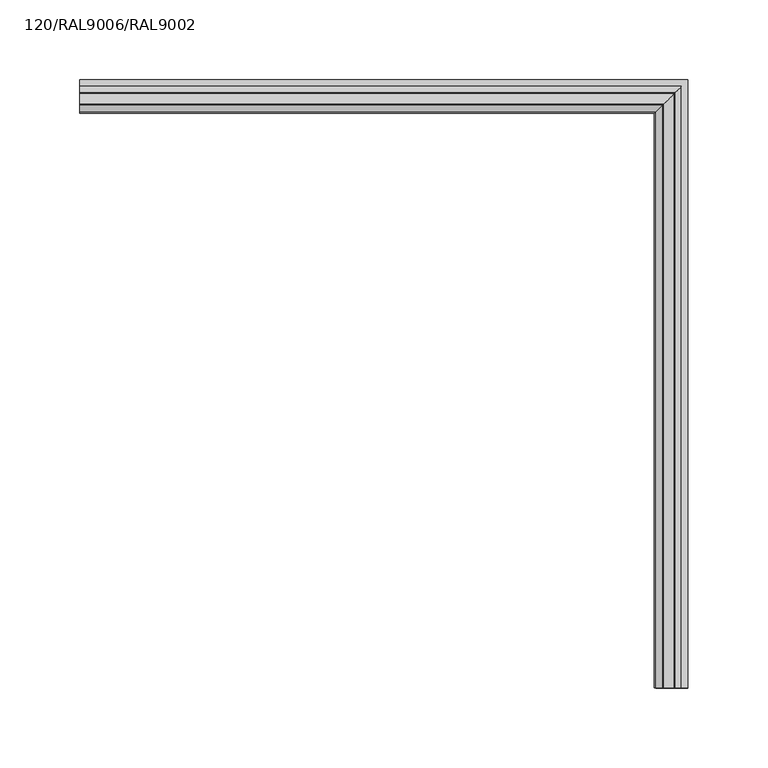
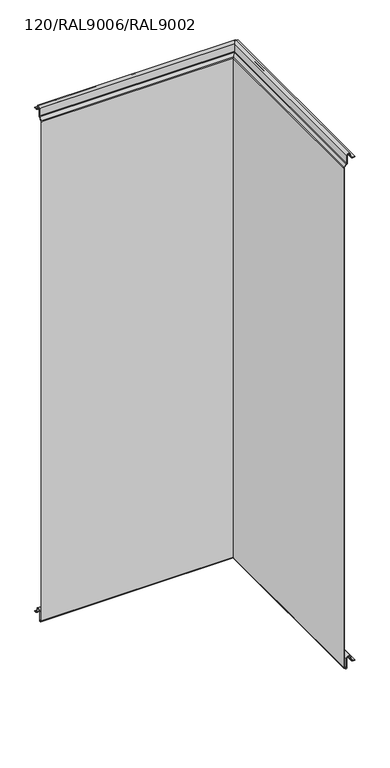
"""IFC4 building model written with IfcOpenShell, lengths in millimetres: plate geometry, TR_C_H_FTV_Corner_Tr_A : 120/RAL9006/RAL9002."""

from ifc_helpers import new_model, si_unit, frame, origin, place, context, project, spatial, polyline, circle_curve, ellipse_curve, source, transform, mapped, element, save
from ifc_brep_helpers import plane_surface, cylinder_surface, revolved_surface, advanced_brep


def plate_120_ral9006_ral9002_7097234f(model_context):
    return source(origin(), model_context, "Body", "AdvancedBrep", [
        advanced_brep(
        [(141.0, -480.0, 1000.6000012), (136.8869672, -480.0, 1000.6000012), (133.1939382, -480.0, 1003.6988205), (132.4506252, -480.0, 1007.9143577), (126.0, -480.0, 1007.3500012), (126.0, -480.0, 992.6000012), (125.267767, -480.0, 990.8322342), (120.8786797, -480.0, 986.4431469), (120.0, -480.0, 984.3218266), (120.0, -480.0, -5.018628), (120.8054564, -480.0, -6.9631716), (122.6711418, -480.0, -8.8288571), (126.0, -480.0, -7.4499988), (126.0, -480.0, 10.1500012), (132.8475867, -480.0, 10.7490874), (133.914412, -480.0, 4.6988205), (137.6074411, -480.0, 1.6000012), (141.0, -480.0, 1.6000012), (141.0, -480.0, 2.4000012), (137.6074411, -480.0, 2.4000012), (134.7022582, -480.0, 4.837739), (133.635433, -480.0, 10.8880059), (125.2, -480.0, 10.1500012), (125.2, -480.0, -7.4499988), (123.2368272, -480.0, -8.2631716), (121.3711418, -480.0, -6.3974862), (120.8, -480.0, -5.018628), (120.8, -480.0, 984.3218266), (121.4443651, -480.0, 985.8774615), (125.8334524, -480.0, 990.2665488), (126.8, -480.0, 992.6000012), (126.8, -480.0, 1007.3500012), (131.662779, -480.0, 1007.7754392), (132.4060919, -480.0, 1003.559902), (136.8869672, -480.0, 999.8000012), (141.0, -480.0, 999.8000012), (133.1939382, -106.8060618, 1003.6988205), (136.8869672, -103.1130328, 1000.6000012), (-240.0, -103.1130328, 1000.6000012), (-240.0, -106.8060618, 1003.6988205), (132.4506252, -107.5493748, 1007.9143577), (-240.0, -107.5493748, 1007.9143577), (126.0, -114.0, 1007.3500012), (-240.0, -114.0, 1007.3500012), (126.0, -114.0, 992.6000012), (-240.0, -114.0, 992.6000012), (125.267767, -114.732233, 990.8322342), (-240.0, -114.732233, 990.8322342), (120.8786797, -119.1213203, 986.4431469), (-240.0, -119.1213203, 986.4431469), (120.0, -120.0, 984.3218266), (-240.0, -120.0, 984.3218266), (120.0, -120.0, -5.018628), (-240.0, -120.0, -5.018628), (120.8054564, -119.1945436, -6.9631716), (-240.0, -119.1945436, -6.9631716), (122.6711418, -117.3288582, -8.8288571), (-240.0, -117.3288582, -8.8288571), (126.0, -114.0, -7.4499988), (-240.0, -114.0, -7.4499988), (126.0, -114.0, 10.1500012), (-240.0, -114.0, 10.1500012), (132.8475867, -107.1524133, 10.7490874), (-240.0, -107.1524133, 10.7490874), (133.914412, -106.085588, 4.6988205), (-240.0, -106.085588, 4.6988205), (137.6074411, -102.3925589, 1.6000012), (-240.0, -102.3925589, 1.6000012), (141.0, -99.0, 2.4000012), (141.0, -99.0, 1.6000012), (-240.0, -99.0, 1.6000012), (-240.0, -99.0, 2.4000012), (134.7022582, -105.2977418, 4.837739), (137.6074411, -102.3925589, 2.4000012), (-240.0, -102.3925589, 2.4000012), (-240.0, -105.2977418, 4.837739), (133.635433, -106.364567, 10.8880059), (-240.0, -106.364567, 10.8880059), (125.2, -114.8, 10.1500012), (-240.0, -114.8, 10.1500012), (125.2, -114.8, -7.4499988), (-240.0, -114.8, -7.4499988), (123.2368272, -116.7631728, -8.2631716), (-240.0, -116.7631728, -8.2631716), (121.3711418, -118.6288582, -6.3974862), (-240.0, -118.6288582, -6.3974862), (120.8, -119.2, -5.018628), (-240.0, -119.2, -5.018628), (120.8, -119.2, 984.3218266), (-240.0, -119.2, 984.3218266), (121.4443651, -118.5556349, 985.8774615), (-240.0, -118.5556349, 985.8774615), (125.8334524, -114.1665476, 990.2665488), (-240.0, -114.1665476, 990.2665488), (126.8, -113.2, 992.6000012), (-240.0, -113.2, 992.6000012), (126.8, -113.2, 1007.3500012), (-240.0, -113.2, 1007.3500012), (131.662779, -108.337221, 1007.7754392), (-240.0, -108.337221, 1007.7754392), (132.4060919, -107.5939081, 1003.559902), (-240.0, -107.5939081, 1003.559902), (136.8869672, -103.1130328, 999.8000012), (-240.0, -103.1130328, 999.8000012), (141.0, -99.0, 1000.6000012), (141.0, -99.0, 999.8000012), (-240.0, -99.0, 999.8000012), (-240.0, -99.0, 1000.6000012)],
        [
            (0, 1),
            (1, 2, circle_curve(frame((136.8869672, -480.0, 1004.3500012), z_axis=(0.0, 1.0, 0.0), x_axis=(-1.0, 0.0, 0.0)), 3.75)),
            (2, 3),
            (3, 4, circle_curve(frame((129.25, -480.0, 1007.3500012), z_axis=(0.0, -1.0, 0.0), x_axis=(-1.0, 0.0, 0.0)), 3.25)),
            (4, 5),
            (5, 6, circle_curve(frame((123.5, -480.0, 992.6000012), z_axis=(0.0, 1.0, 0.0), x_axis=(-1.0, 0.0, 0.0)), 2.5)),
            (6, 7),
            (7, 8, circle_curve(frame((123.0, -480.0, 984.3218266), z_axis=(0.0, -1.0, 0.0), x_axis=(-1.0, 0.0, 0.0)), 3.0)),
            (8, 9),
            (9, 10, circle_curve(frame((122.75, -480.0, -5.018628), z_axis=(0.0, -1.0, 0.0), x_axis=(-1.0, 0.0, 0.0)), 2.75)),
            (10, 11),
            (11, 12, circle_curve(frame((124.05, -480.0, -7.4499988), z_axis=(0.0, -1.0, 0.0), x_axis=(-1.0, 0.0, 0.0)), 1.95)),
            (12, 13),
            (13, 14, circle_curve(frame((129.45, -480.0, 10.1500012), z_axis=(0.0, 1.0, 0.0), x_axis=(-1.0, 0.0, 0.0)), 3.45)),
            (14, 15),
            (15, 16, circle_curve(frame((137.6074411, -480.0, 5.3500012), z_axis=(0.0, -1.0, 0.0), x_axis=(-1.0, 0.0, 0.0)), 3.75)),
            (16, 17),
            (17, 18),
            (18, 19),
            (19, 20, circle_curve(frame((137.6074411, -480.0, 5.3500012), z_axis=(0.0, 1.0, 0.0), x_axis=(-1.0, 0.0, 0.0)), 2.95)),
            (20, 21),
            (21, 22, circle_curve(frame((129.45, -480.0, 10.1500012), z_axis=(0.0, -1.0, 0.0), x_axis=(-1.0, 0.0, 0.0)), 4.25)),
            (22, 23),
            (23, 24, circle_curve(frame((124.05, -480.0, -7.4499988), z_axis=(0.0, 1.0, 0.0), x_axis=(-1.0, 0.0, 0.0)), 1.15)),
            (24, 25),
            (25, 26, circle_curve(frame((122.75, -480.0, -5.018628), z_axis=(0.0, 1.0, 0.0), x_axis=(-1.0, 0.0, 0.0)), 1.95)),
            (26, 27),
            (27, 28, circle_curve(frame((123.0, -480.0, 984.3218266), z_axis=(0.0, 1.0, 0.0), x_axis=(-1.0, 0.0, 0.0)), 2.2)),
            (28, 29),
            (29, 30, circle_curve(frame((123.5, -480.0, 992.6000012), z_axis=(0.0, -1.0, 0.0), x_axis=(-1.0, 0.0, 0.0)), 3.3)),
            (30, 31),
            (31, 32, circle_curve(frame((129.25, -480.0, 1007.3500012), z_axis=(0.0, 1.0, 0.0), x_axis=(-1.0, 0.0, 0.0)), 2.45)),
            (32, 33),
            (33, 34, circle_curve(frame((136.8869672, -480.0, 1004.3500012), z_axis=(0.0, -1.0, 0.0), x_axis=(-1.0, 0.0, 0.0)), 4.55)),
            (34, 35),
            (35, 0),
            (36, 37, ellipse_curve(frame((136.8869672, -103.1130328, 1004.3500012), z_axis=(0.7071067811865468, -0.7071067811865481, 0.0), x_axis=(-0.7071067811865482, -0.7071067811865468, 0.0)), 5.3033009, 3.75)),
            (37, 38),
            (38, 39, circle_curve(frame((-240.0, -103.1130328, 1004.3500012), z_axis=(-1.0, 0.0, 0.0), x_axis=(0.0, -1.0, 0.0)), 3.75)),
            (39, 36),
            (40, 36),
            (39, 41),
            (41, 40),
            (42, 40, ellipse_curve(frame((129.25, -110.75, 1007.3500012), z_axis=(-0.7071067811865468, 0.7071067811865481, 0.0), x_axis=(0.7071067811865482, 0.7071067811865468, 0.0)), 4.5961941, 3.25)),
            (41, 43, circle_curve(frame((-240.0, -110.75, 1007.3500012), z_axis=(1.0, 0.0, 0.0), x_axis=(0.0, -1.0, 0.0)), 3.25)),
            (43, 42),
            (44, 42),
            (43, 45),
            (45, 44),
            (46, 44, ellipse_curve(frame((123.5, -116.5, 992.6000012), z_axis=(0.7071067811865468, -0.7071067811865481, 0.0), x_axis=(-0.7071067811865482, -0.7071067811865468, 0.0)), 3.5355339, 2.5)),
            (45, 47, circle_curve(frame((-240.0, -116.5, 992.6000012), z_axis=(-1.0, 0.0, 0.0), x_axis=(0.0, -1.0, 0.0)), 2.5)),
            (47, 46),
            (48, 46),
            (47, 49),
            (49, 48),
            (50, 48, ellipse_curve(frame((123.0, -117.0, 984.3218266), z_axis=(-0.7071067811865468, 0.7071067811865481, 0.0), x_axis=(0.7071067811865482, 0.7071067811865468, 0.0)), 4.2426407, 3.0)),
            (49, 51, circle_curve(frame((-240.0, -117.0, 984.3218266), z_axis=(1.0, 0.0, 0.0), x_axis=(0.0, -1.0, 0.0)), 3.0)),
            (51, 50),
            (52, 50),
            (51, 53),
            (53, 52),
            (54, 52, ellipse_curve(frame((122.75, -117.25, -5.018628), z_axis=(-0.7071067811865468, 0.7071067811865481, 0.0), x_axis=(0.7071067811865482, 0.7071067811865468, 0.0)), 3.8890873, 2.75)),
            (53, 55, circle_curve(frame((-240.0, -117.25, -5.018628), z_axis=(1.0, 0.0, 0.0), x_axis=(0.0, -1.0, 0.0)), 2.75)),
            (55, 54),
            (56, 54),
            (55, 57),
            (57, 56),
            (58, 56, ellipse_curve(frame((124.05, -115.95, -7.4499988), z_axis=(-0.7071067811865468, 0.7071067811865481, 0.0), x_axis=(0.7071067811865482, 0.7071067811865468, 0.0)), 2.7577164, 1.95)),
            (57, 59, circle_curve(frame((-240.0, -115.95, -7.4499988), z_axis=(1.0, 0.0, 0.0), x_axis=(0.0, -1.0, 0.0)), 1.95)),
            (59, 58),
            (60, 58),
            (59, 61),
            (61, 60),
            (62, 60, ellipse_curve(frame((129.45, -110.55, 10.1500012), z_axis=(0.7071067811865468, -0.7071067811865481, 0.0), x_axis=(-0.7071067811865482, -0.7071067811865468, 0.0)), 4.8790368, 3.45)),
            (61, 63, circle_curve(frame((-240.0, -110.55, 10.1500012), z_axis=(-1.0, 0.0, 0.0), x_axis=(0.0, -1.0, 0.0)), 3.45)),
            (63, 62),
            (64, 62),
            (63, 65),
            (65, 64),
            (66, 64, ellipse_curve(frame((137.6074411, -102.3925589, 5.3500012), z_axis=(-0.7071067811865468, 0.7071067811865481, 0.0), x_axis=(0.7071067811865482, 0.7071067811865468, 0.0)), 5.3033009, 3.75)),
            (65, 67, circle_curve(frame((-240.0, -102.3925589, 5.3500012), z_axis=(1.0, 0.0, 0.0), x_axis=(0.0, -1.0, 0.0)), 3.75)),
            (67, 66),
            (68, 69),
            (69, 70),
            (70, 71),
            (71, 68),
            (72, 73, ellipse_curve(frame((137.6074411, -102.3925589, 5.3500012), z_axis=(0.7071067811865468, -0.7071067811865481, 0.0), x_axis=(-0.7071067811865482, -0.7071067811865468, 0.0)), 4.17193, 2.95)),
            (73, 74),
            (74, 75, circle_curve(frame((-240.0, -102.3925589, 5.3500012), z_axis=(-1.0, 0.0, 0.0), x_axis=(0.0, -1.0, 0.0)), 2.95)),
            (75, 72),
            (76, 72),
            (75, 77),
            (77, 76),
            (78, 76, ellipse_curve(frame((129.45, -110.55, 10.1500012), z_axis=(-0.7071067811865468, 0.7071067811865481, 0.0), x_axis=(0.7071067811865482, 0.7071067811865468, 0.0)), 6.0104076, 4.25)),
            (77, 79, circle_curve(frame((-240.0, -110.55, 10.1500012), z_axis=(1.0, 0.0, 0.0), x_axis=(0.0, -1.0, 0.0)), 4.25)),
            (79, 78),
            (80, 78),
            (79, 81),
            (81, 80),
            (82, 80, ellipse_curve(frame((124.05, -115.95, -7.4499988), z_axis=(0.7071067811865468, -0.7071067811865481, 0.0), x_axis=(-0.7071067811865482, -0.7071067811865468, 0.0)), 1.6263456, 1.15)),
            (81, 83, circle_curve(frame((-240.0, -115.95, -7.4499988), z_axis=(-1.0, 0.0, 0.0), x_axis=(0.0, -1.0, 0.0)), 1.15)),
            (83, 82),
            (84, 82),
            (83, 85),
            (85, 84),
            (86, 84, ellipse_curve(frame((122.75, -117.25, -5.018628), z_axis=(0.7071067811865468, -0.7071067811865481, 0.0), x_axis=(-0.7071067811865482, -0.7071067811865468, 0.0)), 2.7577164, 1.95)),
            (85, 87, circle_curve(frame((-240.0, -117.25, -5.018628), z_axis=(-1.0, 0.0, 0.0), x_axis=(0.0, -1.0, 0.0)), 1.95)),
            (87, 86),
            (88, 86),
            (87, 89),
            (89, 88),
            (90, 88, ellipse_curve(frame((123.0, -117.0, 984.3218266), z_axis=(0.7071067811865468, -0.7071067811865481, 0.0), x_axis=(-0.7071067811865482, -0.7071067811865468, 0.0)), 3.1112698, 2.2)),
            (89, 91, circle_curve(frame((-240.0, -117.0, 984.3218266), z_axis=(-1.0, 0.0, 0.0), x_axis=(0.0, -1.0, 0.0)), 2.2)),
            (91, 90),
            (92, 90),
            (91, 93),
            (93, 92),
            (94, 92, ellipse_curve(frame((123.5, -116.5, 992.6000012), z_axis=(-0.7071067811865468, 0.7071067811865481, 0.0), x_axis=(0.7071067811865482, 0.7071067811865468, 0.0)), 4.6669048, 3.3)),
            (93, 95, circle_curve(frame((-240.0, -116.5, 992.6000012), z_axis=(1.0, 0.0, 0.0), x_axis=(0.0, -1.0, 0.0)), 3.3)),
            (95, 94),
            (96, 94),
            (95, 97),
            (97, 96),
            (98, 96, ellipse_curve(frame((129.25, -110.75, 1007.3500012), z_axis=(0.7071067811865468, -0.7071067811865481, 0.0), x_axis=(-0.7071067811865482, -0.7071067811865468, 0.0)), 3.4648232, 2.45)),
            (97, 99, circle_curve(frame((-240.0, -110.75, 1007.3500012), z_axis=(-1.0, 0.0, 0.0), x_axis=(0.0, -1.0, 0.0)), 2.45)),
            (99, 98),
            (100, 98),
            (99, 101),
            (101, 100),
            (102, 100, ellipse_curve(frame((136.8869672, -103.1130328, 1004.3500012), z_axis=(-0.7071067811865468, 0.7071067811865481, 0.0), x_axis=(0.7071067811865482, 0.7071067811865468, 0.0)), 6.4346717, 4.55)),
            (101, 103, circle_curve(frame((-240.0, -103.1130328, 1004.3500012), z_axis=(1.0, 0.0, 0.0), x_axis=(0.0, -1.0, 0.0)), 4.55)),
            (103, 102),
            (104, 105),
            (105, 106),
            (106, 107),
            (107, 104),
            (106, 103),
            (74, 71),
            (70, 67),
            (38, 107),
            (0, 104),
            (37, 1),
            (36, 2),
            (40, 3),
            (42, 4),
            (44, 5),
            (46, 6),
            (48, 7),
            (50, 8),
            (52, 9),
            (54, 10),
            (56, 11),
            (58, 12),
            (60, 13),
            (62, 14),
            (64, 15),
            (66, 16),
            (69, 17),
            (68, 18),
            (73, 19),
            (72, 20),
            (76, 21),
            (78, 22),
            (80, 23),
            (82, 24),
            (84, 25),
            (86, 26),
            (88, 27),
            (90, 28),
            (92, 29),
            (94, 30),
            (96, 31),
            (98, 32),
            (100, 33),
            (102, 34),
            (105, 35),
        ],
        [
            plane_surface(frame((240.0, -480.0, 0.0), z_axis=(0.0, -1.0, 0.0), x_axis=(0.0, 0.0, 1.0))),
            revolved_surface(polyline([(-240.0, -106.8630328, 1004.3500012), (140.6369672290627, -106.8630328, 1004.3500012)]), (240.0, -103.1130328, 1004.3500012), (-1.0, 0.0, 0.0)),
            plane_surface(frame((133.1939382, -106.8060618, 1003.6988205), z_axis=(0.0, 0.9848077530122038, 0.17364817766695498), x_axis=(-1.0, 0.0, 0.0))),
            cylinder_surface(frame((240.0, -110.75, 1007.3500012), z_axis=(1.0, 0.0, 0.0), x_axis=(0.0, -1.0, 0.0)), 3.25),
            plane_surface(frame((126.0, -114.0, 1007.3500012), z_axis=(0.0, -1.0, 0.0), x_axis=(-1.0, 0.0, 0.0))),
            revolved_surface(polyline([(-240.0, -119.0, 992.6000012), (126.0, -119.0, 992.6000012)]), (240.0, -116.5, 992.6000012), (-1.0, 0.0, 0.0)),
            plane_surface(frame((125.267767, -114.732233, 990.8322342), z_axis=(0.0, -0.7071067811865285, 0.7071067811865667), x_axis=(-1.0, 0.0, 0.0))),
            cylinder_surface(frame((240.0, -117.0, 984.3218266), z_axis=(1.0, 0.0, 0.0), x_axis=(0.0, -1.0, 0.0)), 3.0),
            plane_surface(frame((120.0, -120.0, 984.3218266), z_axis=(0.0, -1.0, 0.0), x_axis=(-1.0, 0.0, 0.0))),
            cylinder_surface(frame((240.0, -117.25, -5.018628), z_axis=(1.0, 0.0, 0.0), x_axis=(0.0, -1.0, 0.0)), 2.75),
            plane_surface(frame((120.8054564, -119.1945436, -6.9631716), z_axis=(0.0, -0.7071067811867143, -0.7071067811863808), x_axis=(-1.0, 0.0, 0.0))),
            cylinder_surface(frame((240.0, -115.95, -7.4499988), z_axis=(1.0, 0.0, 0.0), x_axis=(0.0, -1.0, 0.0)), 1.95),
            plane_surface(frame((126.0, -114.0, -7.4499988), z_axis=(0.0, 1.0, 0.0), x_axis=(-1.0, 0.0, 0.0))),
            revolved_surface(polyline([(-240.0, -114.0, 10.1500012), (132.9000000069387, -114.0, 10.1500012)]), (240.0, -110.55, 10.1500012), (-1.0, 0.0, 0.0)),
            plane_surface(frame((132.8475867, -107.1524133, 10.7490874), z_axis=(0.0, -0.9848077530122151, -0.1736481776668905), x_axis=(-1.0, 0.0, 0.0))),
            cylinder_surface(frame((240.0, -102.3925589, 5.3500012), z_axis=(1.0, 0.0, 0.0), x_axis=(0.0, -1.0, 0.0)), 3.75),
            plane_surface(frame((141.0, -99.0, 1.6000012), z_axis=(0.0, 1.0, 0.0), x_axis=(-1.0, 0.0, 0.0))),
            revolved_surface(polyline([(-240.0, -105.3425589, 5.3500012), (140.5574410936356, -105.3425589, 5.3500012)]), (240.0, -102.3925589, 5.3500012), (-1.0, 0.0, 0.0)),
            plane_surface(frame((134.7022582, -105.2977418, 4.837739), z_axis=(0.0, 0.9848077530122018, 0.1736481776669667), x_axis=(-1.0, 0.0, 0.0))),
            cylinder_surface(frame((240.0, -110.55, 10.1500012), z_axis=(1.0, 0.0, 0.0), x_axis=(0.0, -1.0, 0.0)), 4.25),
            plane_surface(frame((125.2, -114.8, 10.1500012), z_axis=(0.0, -1.0, 0.0), x_axis=(-1.0, 0.0, 0.0))),
            revolved_surface(polyline([(-240.0, -117.10000000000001, -7.4499988), (125.2000000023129, -117.10000000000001, -7.4499988)]), (240.0, -115.95, -7.4499988), (-1.0, 0.0, 0.0)),
            plane_surface(frame((123.2368272, -116.7631728, -8.2631716), z_axis=(0.0, 0.7071067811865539, 0.7071067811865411), x_axis=(-1.0, 0.0, 0.0))),
            revolved_surface(polyline([(-240.0, -119.2, -5.018628), (124.69999996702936, -119.2, -5.018628)]), (240.0, -117.25, -5.018628), (-1.0, 0.0, 0.0)),
            plane_surface(frame((120.8, -119.2, -5.018628), z_axis=(0.0, 1.0, 0.0), x_axis=(-1.0, 0.0, 0.0))),
            revolved_surface(polyline([(-240.0, -119.2, 984.3218266), (125.19999997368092, -119.2, 984.3218266)]), (240.0, -117.0, 984.3218266), (-1.0, 0.0, 0.0)),
            plane_surface(frame((121.4443651, -118.5556349, 985.8774615), z_axis=(0.0, 0.7071067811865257, -0.7071067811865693), x_axis=(-1.0, 0.0, 0.0))),
            cylinder_surface(frame((240.0, -116.5, 992.6000012), z_axis=(1.0, 0.0, 0.0), x_axis=(0.0, -1.0, 0.0)), 3.3),
            plane_surface(frame((126.8, -113.2, 992.6000012), z_axis=(0.0, 1.0, 0.0), x_axis=(-1.0, 0.0, 0.0))),
            revolved_surface(polyline([(-240.0, -113.2, 1007.3500012), (131.69999998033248, -113.2, 1007.3500012)]), (240.0, -110.75, 1007.3500012), (-1.0, 0.0, 0.0)),
            plane_surface(frame((131.662779, -108.337221, 1007.7754392), z_axis=(0.0, -0.9848077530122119, -0.173648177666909), x_axis=(-1.0, 0.0, 0.0))),
            cylinder_surface(frame((240.0, -103.1130328, 1004.3500012), z_axis=(1.0, 0.0, 0.0), x_axis=(0.0, -1.0, 0.0)), 4.55),
            plane_surface(frame((141.0, -99.0, 999.8000012), z_axis=(0.0, 1.0, 0.0), x_axis=(-1.0, 0.0, 0.0))),
            plane_surface(frame((-240.0, 0.0, 0.0), z_axis=(-1.0, 0.0, 0.0), x_axis=(0.0, 0.0, 1.0))),
            plane_surface(frame((141.0, -480.0, 1000.6000012), z_axis=(0.0, 0.0, 1.0), x_axis=(0.0, 1.0, 0.0))),
            revolved_surface(polyline([(133.1369672, -99.36303277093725, 1004.3500012), (133.1369672, -480.0, 1004.3500012)]), (136.8869672, -480.0, 1004.3500012), (0.0, 1.0, 0.0)),
            plane_surface(frame((133.1939382, -480.0, 1003.6988205), z_axis=(0.9848077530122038, 0.0, 0.17364817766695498), x_axis=(0.0, 1.0, 0.0))),
            cylinder_surface(frame((129.25, -480.0, 1007.3500012), z_axis=(0.0, -1.0, 0.0), x_axis=(-1.0, 0.0, 0.0)), 3.25),
            plane_surface(frame((126.0, -480.0, 1007.3500012), z_axis=(-1.0, 0.0, 0.0), x_axis=(0.0, 1.0, 0.0))),
            revolved_surface(polyline([(121.0, -114.0, 992.6000012), (121.0, -480.0, 992.6000012)]), (123.5, -480.0, 992.6000012), (0.0, 1.0, 0.0)),
            plane_surface(frame((125.267767, -480.0, 990.8322342), z_axis=(-0.7071067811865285, 0.0, 0.7071067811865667), x_axis=(0.0, 1.0, 0.0))),
            cylinder_surface(frame((123.0, -480.0, 984.3218266), z_axis=(0.0, -1.0, 0.0), x_axis=(-1.0, 0.0, 0.0)), 3.0),
            plane_surface(frame((120.0, -480.0, 984.3218266), z_axis=(-1.0, 0.0, 0.0), x_axis=(0.0, 1.0, 0.0))),
            cylinder_surface(frame((122.75, -480.0, -5.018628), z_axis=(0.0, -1.0, 0.0), x_axis=(-1.0, 0.0, 0.0)), 2.75),
            plane_surface(frame((120.8054564, -480.0, -6.9631716), z_axis=(-0.7071067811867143, 0.0, -0.7071067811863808), x_axis=(0.0, 1.0, 0.0))),
            cylinder_surface(frame((124.05, -480.0, -7.4499988), z_axis=(0.0, -1.0, 0.0), x_axis=(-1.0, 0.0, 0.0)), 1.95),
            plane_surface(frame((126.0, -480.0, -7.4499988), z_axis=(1.0, 0.0, 0.0), x_axis=(0.0, 1.0, 0.0))),
            revolved_surface(polyline([(125.99999999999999, -107.09999999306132, 10.1500012), (125.99999999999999, -480.0, 10.1500012)]), (129.45, -480.0, 10.1500012), (0.0, 1.0, 0.0)),
            plane_surface(frame((132.8475867, -480.0, 10.7490874), z_axis=(-0.9848077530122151, 0.0, -0.1736481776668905), x_axis=(0.0, 1.0, 0.0))),
            cylinder_surface(frame((137.6074411, -480.0, 5.3500012), z_axis=(0.0, -1.0, 0.0), x_axis=(-1.0, 0.0, 0.0)), 3.75),
            plane_surface(frame((137.6074411, -480.0, 1.6000012), z_axis=(0.0, 0.0, -1.0), x_axis=(0.0, 1.0, 0.0))),
            plane_surface(frame((141.0, -480.0, 1.6000012), z_axis=(1.0, 0.0, 0.0), x_axis=(0.0, 1.0, 0.0))),
            plane_surface(frame((141.0, -480.0, 2.4000012), z_axis=(0.0, 0.0, 1.0), x_axis=(0.0, 1.0, 0.0))),
            revolved_surface(polyline([(134.6574411, -99.44255890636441, 5.3500012), (134.6574411, -480.0, 5.3500012)]), (137.6074411, -480.0, 5.3500012), (0.0, 1.0, 0.0)),
            plane_surface(frame((134.7022582, -480.0, 4.837739), z_axis=(0.9848077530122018, 0.0, 0.1736481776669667), x_axis=(0.0, 1.0, 0.0))),
            cylinder_surface(frame((129.45, -480.0, 10.1500012), z_axis=(0.0, -1.0, 0.0), x_axis=(-1.0, 0.0, 0.0)), 4.25),
            plane_surface(frame((125.2, -480.0, 10.1500012), z_axis=(-1.0, 0.0, 0.0), x_axis=(0.0, 1.0, 0.0))),
            revolved_surface(polyline([(122.89999999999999, -114.79999999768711, -7.4499988), (122.89999999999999, -480.0, -7.4499988)]), (124.05, -480.0, -7.4499988), (0.0, 1.0, 0.0)),
            plane_surface(frame((123.2368272, -480.0, -8.2631716), z_axis=(0.7071067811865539, 0.0, 0.7071067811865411), x_axis=(0.0, 1.0, 0.0))),
            revolved_surface(polyline([(120.8, -115.30000003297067, -5.018628), (120.8, -480.0, -5.018628)]), (122.75, -480.0, -5.018628), (0.0, 1.0, 0.0)),
            plane_surface(frame((120.8, -480.0, -5.018628), z_axis=(1.0, 0.0, 0.0), x_axis=(0.0, 1.0, 0.0))),
            revolved_surface(polyline([(120.8, -114.80000002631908, 984.3218266), (120.8, -480.0, 984.3218266)]), (123.0, -480.0, 984.3218266), (0.0, 1.0, 0.0)),
            plane_surface(frame((121.4443651, -480.0, 985.8774615), z_axis=(0.7071067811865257, 0.0, -0.7071067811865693), x_axis=(0.0, 1.0, 0.0))),
            cylinder_surface(frame((123.5, -480.0, 992.6000012), z_axis=(0.0, -1.0, 0.0), x_axis=(-1.0, 0.0, 0.0)), 3.3),
            plane_surface(frame((126.8, -480.0, 992.6000012), z_axis=(1.0, 0.0, 0.0), x_axis=(0.0, 1.0, 0.0))),
            revolved_surface(polyline([(126.8, -108.30000001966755, 1007.3500012), (126.8, -480.0, 1007.3500012)]), (129.25, -480.0, 1007.3500012), (0.0, 1.0, 0.0)),
            plane_surface(frame((131.662779, -480.0, 1007.7754392), z_axis=(-0.9848077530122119, 0.0, -0.173648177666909), x_axis=(0.0, 1.0, 0.0))),
            cylinder_surface(frame((136.8869672, -480.0, 1004.3500012), z_axis=(0.0, -1.0, 0.0), x_axis=(-1.0, 0.0, 0.0)), 4.55),
            plane_surface(frame((136.8869672, -480.0, 999.8000012), z_axis=(0.0, 0.0, -1.0), x_axis=(0.0, 1.0, 0.0))),
            plane_surface(frame((141.0, -480.0, 999.8000012), z_axis=(1.0, 0.0, 0.0), x_axis=(0.0, 1.0, 0.0))),
        ],
        [
            (0, [[1, 2, 3, 4, 5, 6, 7, 8, 9, 10, 11, 12, 13, 14, 15, 16, 17, 18, 19, 20, 21, 22, 23, 24, 25, 26, 27, 28, 29, 30, 31, 32, 33, 34, 35, 36]]),
            (1, [[37, 38, 39, 40]]),
            (2, [[41, -40, 42, 43]]),
            (3, [[44, -43, 45, 46]]),
            (4, [[47, -46, 48, 49]]),
            (5, [[50, -49, 51, 52]]),
            (6, [[53, -52, 54, 55]]),
            (7, [[56, -55, 57, 58]]),
            (8, [[59, -58, 60, 61]]),
            (9, [[62, -61, 63, 64]]),
            (10, [[65, -64, 66, 67]]),
            (11, [[68, -67, 69, 70]]),
            (12, [[71, -70, 72, 73]]),
            (13, [[74, -73, 75, 76]]),
            (14, [[77, -76, 78, 79]]),
            (15, [[80, -79, 81, 82]]),
            (16, [[83, 84, 85, 86]]),
            (17, [[87, 88, 89, 90]]),
            (18, [[91, -90, 92, 93]]),
            (19, [[94, -93, 95, 96]]),
            (20, [[97, -96, 98, 99]]),
            (21, [[100, -99, 101, 102]]),
            (22, [[103, -102, 104, 105]]),
            (23, [[106, -105, 107, 108]]),
            (24, [[109, -108, 110, 111]]),
            (25, [[112, -111, 113, 114]]),
            (26, [[115, -114, 116, 117]]),
            (27, [[118, -117, 119, 120]]),
            (28, [[121, -120, 122, 123]]),
            (29, [[124, -123, 125, 126]]),
            (30, [[127, -126, 128, 129]]),
            (31, [[130, -129, 131, 132]]),
            (32, [[133, 134, 135, 136]]),
            (33, [[-135, 137, -131, -128, -125, -122, -119, -116, -113, -110, -107, -104, -101, -98, -95, -92, -89, 138, -85, 139, -81, -78, -75, -72, -69, -66, -63, -60, -57, -54, -51, -48, -45, -42, -39, 140]]),
            (34, [[-1, 141, -136, -140, -38, 142]]),
            (35, [[-2, -142, -37, 143]]),
            (36, [[-3, -143, -41, 144]]),
            (37, [[-4, -144, -44, 145]]),
            (38, [[-5, -145, -47, 146]]),
            (39, [[-6, -146, -50, 147]]),
            (40, [[-7, -147, -53, 148]]),
            (41, [[-8, -148, -56, 149]]),
            (42, [[-9, -149, -59, 150]]),
            (43, [[-10, -150, -62, 151]]),
            (44, [[-11, -151, -65, 152]]),
            (45, [[-12, -152, -68, 153]]),
            (46, [[-13, -153, -71, 154]]),
            (47, [[-14, -154, -74, 155]]),
            (48, [[-15, -155, -77, 156]]),
            (49, [[-16, -156, -80, 157]]),
            (50, [[-17, -157, -82, -139, -84, 158]]),
            (51, [[-18, -158, -83, 159]]),
            (52, [[-19, -159, -86, -138, -88, 160]]),
            (53, [[-20, -160, -87, 161]]),
            (54, [[-21, -161, -91, 162]]),
            (55, [[-22, -162, -94, 163]]),
            (56, [[-23, -163, -97, 164]]),
            (57, [[-24, -164, -100, 165]]),
            (58, [[-25, -165, -103, 166]]),
            (59, [[-26, -166, -106, 167]]),
            (60, [[-27, -167, -109, 168]]),
            (61, [[-28, -168, -112, 169]]),
            (62, [[-29, -169, -115, 170]]),
            (63, [[-30, -170, -118, 171]]),
            (64, [[-31, -171, -121, 172]]),
            (65, [[-32, -172, -124, 173]]),
            (66, [[-33, -173, -127, 174]]),
            (67, [[-34, -174, -130, 175]]),
            (68, [[-35, -175, -132, -137, -134, 176]]),
            (69, [[-36, -176, -133, -141]]),
        ],
    ),
    ])


if __name__ == "__main__":
    model = new_model("IFC4")
    model_context = context("Model", 3, world=origin())
    ifc_project = project(units=[si_unit("LENGTHUNIT", "METRE", prefix="MILLI")], contexts=[model_context])
    site = spatial("IfcSite", under=ifc_project)
    building = spatial("IfcBuilding", under=site)
    placement = place(None, origin())
    plate_120_ral9006_ral9002_shape = plate_120_ral9006_ral9002_7097234f(model_context)
    element("IfcPlate", 1, ObjectType="TR_C_H_FTV_Corner_Tr_A : 120/RAL9006/RAL9002", at=placement, inside=building, context=model_context, shape_type="MappedRepresentation", body=[
        mapped(plate_120_ral9006_ral9002_shape, transform((0.0, 0.0, 0.0), x_axis=(1.0, 0.0, 0.0), y_axis=(0.0, 1.0, 0.0), z_axis=(0.0, 0.0, 1.0))),
    ])
    save(model, "model.ifc")
